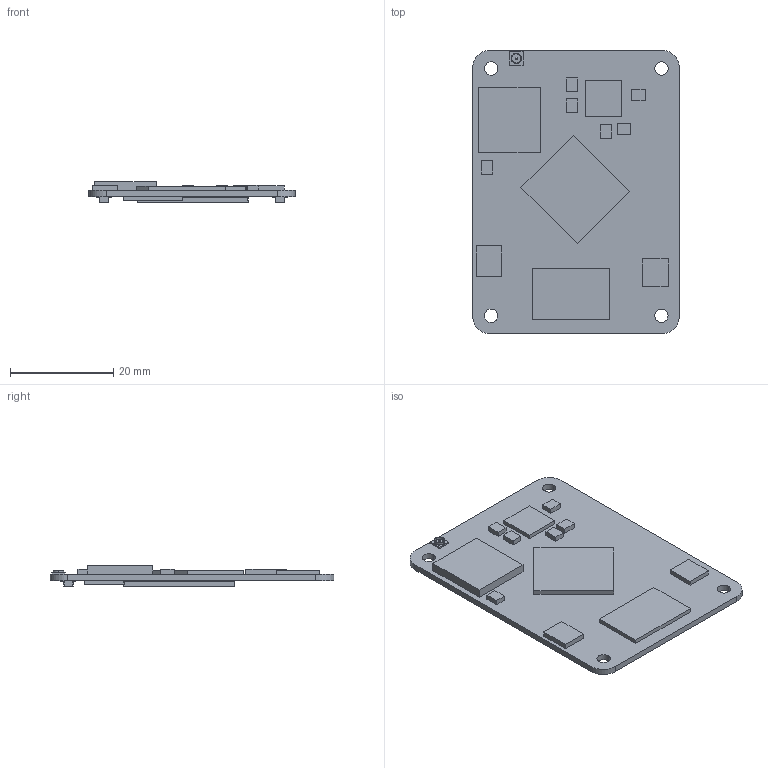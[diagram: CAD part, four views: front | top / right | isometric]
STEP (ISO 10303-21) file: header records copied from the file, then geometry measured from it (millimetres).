
FILE_DESCRIPTION((''),'2;1');
FILE_NAME('CM3_PCBA_ASM','2023-08-10T20:49:39',('admin'),(''),'CREO PARAMETRIC BY PTC INC, 2023072','CREO PARAMETRIC BY PTC INC, 2023072','');
FILE_SCHEMA(('CONFIG_CONTROL_DESIGN','SHAPE_APPEARANCE_LAYERS_GROUPS'));
Length unit declared in the file: millimetre
Products named in the file (6): PCB; PCB_BOT; DF40C-100DP-0_4V-442680; DF40C-100DP-0_4V-443010_ASM; DF40C-100DP_ASM; CM3_PCBA_ASM
Assembly tree (7 placements, depth 4):
  CM3_PCBA_ASM
    PCB
    PCB_BOT
    DF40C-100DP_ASM  x3
      DF40C-100DP-0_4V-443010_ASM
        DF40C-100DP-0_4V-442680
Bounding box: 40.05 x 55.02 x 4.04 mm (x, y, z)
Volume: 3493.4 mm3; surface area: 5536.3 mm2
Topology: 4 solids, 4 shells, 4067 faces, 12076 edges, 8041 vertices
Faces by surface type: plane 2709, cylinder 1332, cone 24, sphere 2
Entity records: 62183 total; most frequent: CARTESIAN_POINT 9429, ORIENTED_EDGE 8364, DIRECTION 7512, PRESENTATION_STYLE_ASSIGNMENT 4249, STYLED_ITEM 4184, CURVE_STYLE 4182, EDGE_CURVE 4182, VECTOR 3244
